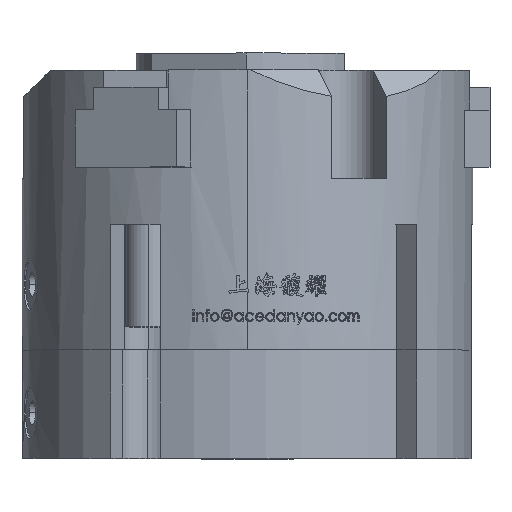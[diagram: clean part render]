
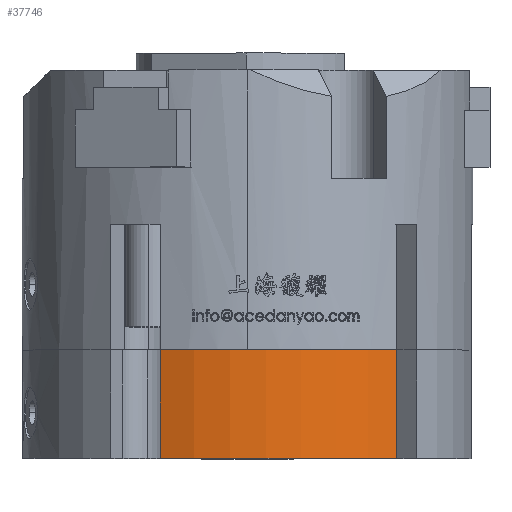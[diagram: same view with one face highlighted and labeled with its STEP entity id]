
A CAD part, top view. The second image highlights one B-rep face of the part: STEP entity #37746.
In plain terms, the highlighted cylindrical face has radius 39.5 mm (diameter 79 mm), a partial arc.
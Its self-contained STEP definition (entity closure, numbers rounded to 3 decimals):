
#1269 = CIRCLE ( 'NONE', #55082, 39.5 ) ;
#3488 = ORIENTED_EDGE ( 'NONE', *, *, #37377, .T. ) ;
#4205 = CYLINDRICAL_SURFACE ( 'NONE', #57389, 39.5 ) ;
#7642 = EDGE_CURVE ( 'NONE', #71166, #37149, #1269, .T. ) ;
#8150 = CARTESIAN_POINT ( 'NONE',  ( -15.261, 19., 36.433 ) ) ;
#8340 = CARTESIAN_POINT ( 'NONE',  ( -15.261, 19., 36.433 ) ) ;
#9091 = CARTESIAN_POINT ( 'NONE',  ( 26.107, 19., 29.642 ) ) ;
#9214 = VERTEX_POINT ( 'NONE', #58403 ) ;
#14103 = DIRECTION ( 'NONE',  ( 0., -1., 0. ) ) ;
#16900 = ORIENTED_EDGE ( 'NONE', *, *, #33942, .T. ) ;
#18704 = EDGE_CURVE ( 'NONE', #64430, #9214, #19147, .T. ) ;
#19147 = CIRCLE ( 'NONE', #49080, 39.5 ) ;
#20557 = DIRECTION ( 'NONE',  ( 0., -1., 0. ) ) ;
#20965 = CARTESIAN_POINT ( 'NONE',  ( 0., 19., 0. ) ) ;
#21328 = FACE_OUTER_BOUND ( 'NONE', #27960, .T. ) ;
#22689 = ORIENTED_EDGE ( 'NONE', *, *, #7642, .T. ) ;
#24218 = CARTESIAN_POINT ( 'NONE',  ( 0., 0., 0. ) ) ;
#24925 = LINE ( 'NONE', #9091, #55562 ) ;
#26713 = LINE ( 'NONE', #8340, #72621 ) ;
#26731 = DIRECTION ( 'NONE',  ( 0., 0., -1. ) ) ;
#27960 = EDGE_LOOP ( 'NONE', ( #74054, #16900, #22689, #3488 ) ) ;
#29990 = DIRECTION ( 'NONE',  ( 0., 0., -1. ) ) ;
#33942 = EDGE_CURVE ( 'NONE', #64430, #71166, #26713, .T. ) ;
#37149 = VERTEX_POINT ( 'NONE', #38162 ) ;
#37377 = EDGE_CURVE ( 'NONE', #37149, #9214, #24925, .T. ) ;
#37746 = ADVANCED_FACE ( 'NONE', ( #21328 ), #4205, .T. ) ;
#37940 = DIRECTION ( 'NONE',  ( 0., 0., -1. ) ) ;
#38162 = CARTESIAN_POINT ( 'NONE',  ( 26.107, 0., 29.642 ) ) ;
#49080 = AXIS2_PLACEMENT_3D ( 'NONE', #20965, #61233, #26731 ) ;
#49353 = DIRECTION ( 'NONE',  ( 0., 1., 0. ) ) ;
#55082 = AXIS2_PLACEMENT_3D ( 'NONE', #24218, #64486, #29990 ) ;
#55275 = CARTESIAN_POINT ( 'NONE',  ( 0., 19., 0. ) ) ;
#55562 = VECTOR ( 'NONE', #49353, 1000. ) ;
#57236 = CARTESIAN_POINT ( 'NONE',  ( -15.261, 0., 36.433 ) ) ;
#57389 = AXIS2_PLACEMENT_3D ( 'NONE', #55275, #20557, #37940 ) ;
#58403 = CARTESIAN_POINT ( 'NONE',  ( 26.107, 19., 29.642 ) ) ;
#61233 = DIRECTION ( 'NONE',  ( 0., 1., 0. ) ) ;
#64430 = VERTEX_POINT ( 'NONE', #8150 ) ;
#64486 = DIRECTION ( 'NONE',  ( 0., 1., 0. ) ) ;
#71166 = VERTEX_POINT ( 'NONE', #57236 ) ;
#72621 = VECTOR ( 'NONE', #14103, 1000. ) ;
#74054 = ORIENTED_EDGE ( 'NONE', *, *, #18704, .F. ) ;
